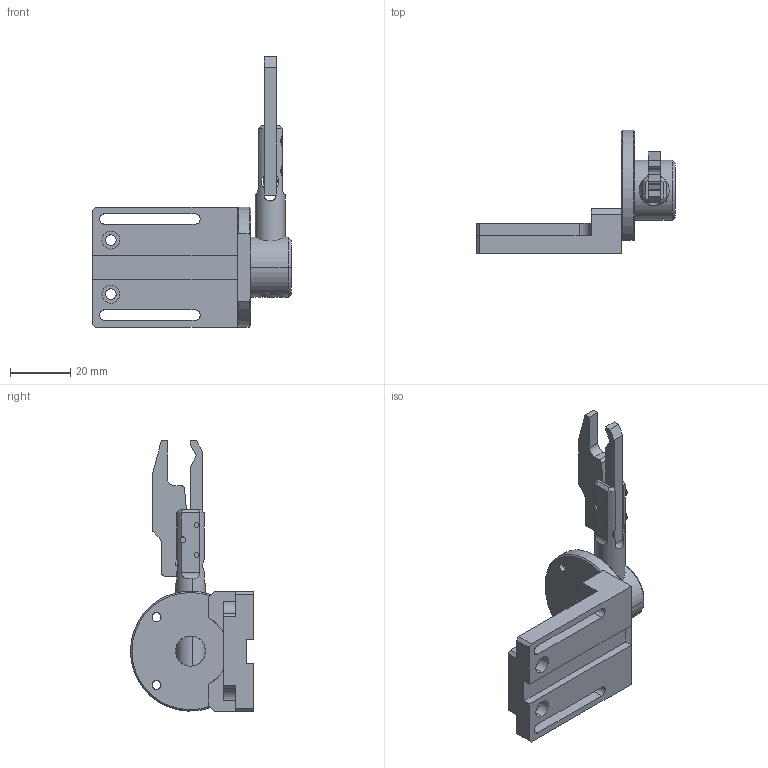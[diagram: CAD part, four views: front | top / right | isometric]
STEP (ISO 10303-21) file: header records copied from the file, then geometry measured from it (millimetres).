
FILE_DESCRIPTION (( 'STEP AP203' ), '1' );
FILE_NAME ('F290-6.STEP', '2022-12-27T00:44:07', ( '' ), ( '' ), 'SwSTEP 2.0', 'SolidWorks 2017', '' );
FILE_SCHEMA (( 'CONFIG_CONTROL_DESIGN' ));
Length unit declared in the file: millimetre
Products named in the file (5): F290-6-prt2; F290-6; F290-6-prt3; F290-6-prt1; F290-6-prt0
Assembly tree (4 placements, depth 2):
  F290-6
    F290-6-prt0
    F290-6-prt1
    F290-6-prt2
    F290-6-prt3
Bounding box: 66 x 41 x 90 mm (x, y, z)
Volume: 27436.1 mm3; surface area: 14874.7 mm2
Topology: 4 solids, 8 shells, 317 faces, 780 edges, 478 vertices
Faces by surface type: plane 163, cylinder 94, bspline 41, cone 15, torus 4
Entity records: 11626 total; most frequent: CARTESIAN_POINT 3756, ORIENTED_EDGE 1536, DIRECTION 1513, EDGE_CURVE 768, AXIS2_PLACEMENT_3D 531, VERTEX_POINT 478, VECTOR 451, LINE 451
